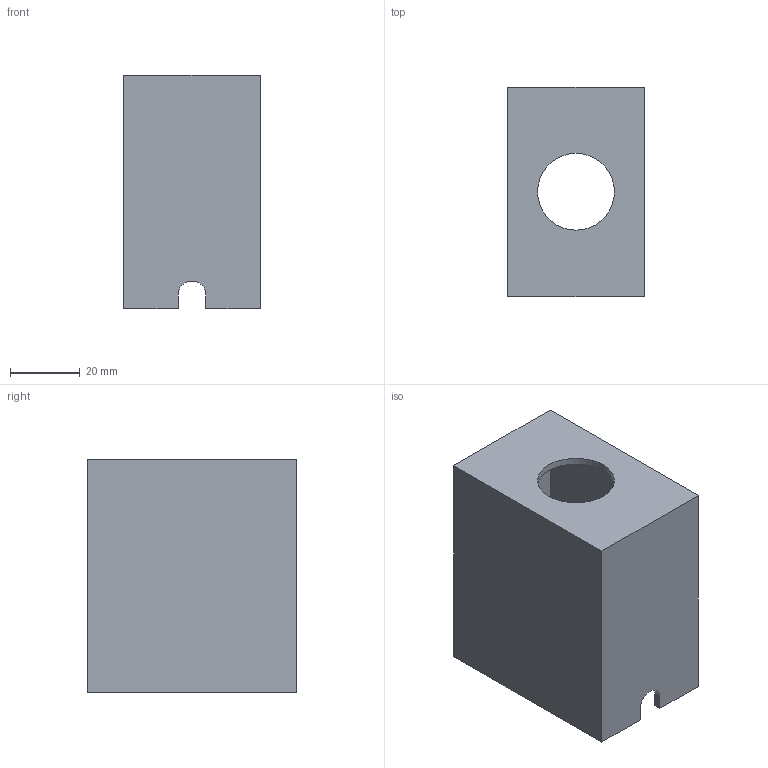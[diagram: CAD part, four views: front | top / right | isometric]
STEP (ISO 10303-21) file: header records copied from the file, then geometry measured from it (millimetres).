
FILE_DESCRIPTION(/* description */ ('Unknown'),/* implementation_level */ '2;1');
FILE_NAME(/* name */ '20240530_Gehaeuse_Not-Aus_Oberteil_Harbauer',/* time_stamp */ '2024-05-30T20:33:43+02:00',/* author */ ('Unknown'),/* organization */ ('Unknown'),/* preprocessor_version */ 'ST-DEVELOPER v19.4',/* originating_system */ 'Solid Edge',/* authorisation */ 'Unknown');
FILE_SCHEMA (('AUTOMOTIVE_DESIGN {1 0 10303 214 3 1 1}'));
Length unit declared in the file: millimetre
Products named in the file (1): Gehaeuse_Not-Aus
Bounding box: 39 x 60 x 67 mm (x, y, z)
Volume: 29721.9 mm3; surface area: 29668.1 mm2
Topology: 1 solids, 1 shells, 35 faces, 104 edges, 71 vertices
Faces by surface type: plane 28, cylinder 7
Full cylindrical faces by diameter (mm): 3.3 x4, 22 x1
Entity records: 1152 total; most frequent: CARTESIAN_POINT 196, ORIENTED_EDGE 188, DIRECTION 180, EDGE_CURVE 94, LINE 80, VECTOR 80, VERTEX_POINT 66, EDGE_LOOP 50
